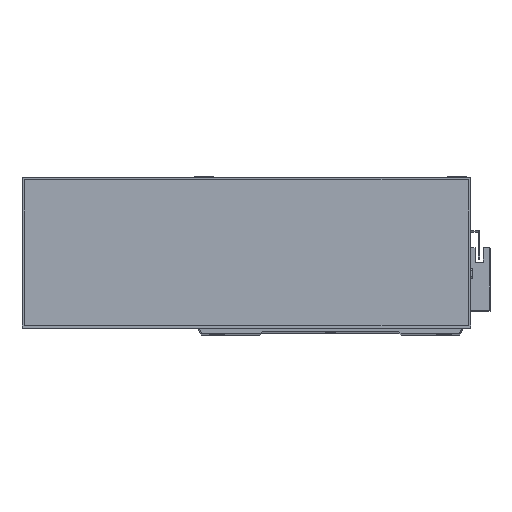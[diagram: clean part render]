
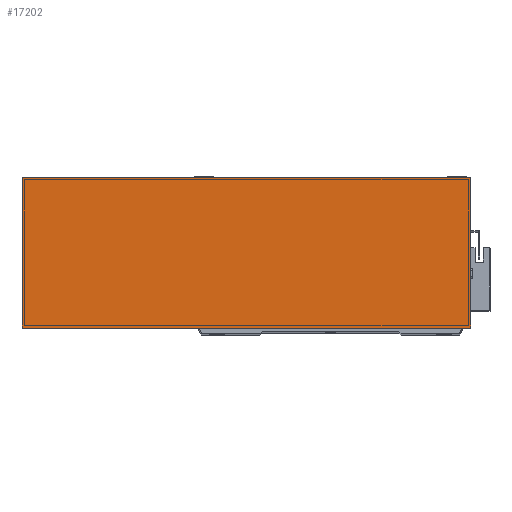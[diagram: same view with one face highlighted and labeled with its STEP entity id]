
A CAD part, top view. The second image highlights one B-rep face of the part: STEP entity #17202.
In plain terms, the highlighted planar face has unit normal (0, 0, 1).
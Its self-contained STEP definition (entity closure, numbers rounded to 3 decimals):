
#383 = CARTESIAN_POINT ( 'NONE',  ( 0., 93., 50. ) ) ;
#455 = DIRECTION ( 'NONE',  ( 0., 1., 0. ) ) ;
#790 = VERTEX_POINT ( 'NONE', #18123 ) ;
#1466 = VECTOR ( 'NONE', #2035, 1000. ) ;
#2035 = DIRECTION ( 'NONE',  ( 1., 0., 0. ) ) ;
#2401 = VERTEX_POINT ( 'NONE', #383 ) ;
#2823 = VERTEX_POINT ( 'NONE', #26695 ) ;
#2901 = CARTESIAN_POINT ( 'NONE',  ( 0., 93., 50. ) ) ;
#3943 = CARTESIAN_POINT ( 'NONE',  ( 0., 0., 50. ) ) ;
#4172 = CARTESIAN_POINT ( 'NONE',  ( 0., 0., 50. ) ) ;
#6083 = DIRECTION ( 'NONE',  ( 0., 0., -1. ) ) ;
#8407 = LINE ( 'NONE', #12569, #1466 ) ;
#9014 = VECTOR ( 'NONE', #19879, 1000. ) ;
#9036 = EDGE_CURVE ( 'NONE', #14085, #2823, #8407, .T. ) ;
#9432 = LINE ( 'NONE', #25857, #20077 ) ;
#9690 = LINE ( 'NONE', #2901, #9014 ) ;
#9977 = ORIENTED_EDGE ( 'NONE', *, *, #24709, .T. ) ;
#10521 = ORIENTED_EDGE ( 'NONE', *, *, #10921, .T. ) ;
#10536 = ORIENTED_EDGE ( 'NONE', *, *, #9036, .T. ) ;
#10631 = VECTOR ( 'NONE', #17640, 1000. ) ;
#10921 = EDGE_CURVE ( 'NONE', #2401, #14085, #21985, .T. ) ;
#11594 = AXIS2_PLACEMENT_3D ( 'NONE', #3943, #6083, #20932 ) ;
#12569 = CARTESIAN_POINT ( 'NONE',  ( 0., 0., 50. ) ) ;
#12948 = FACE_OUTER_BOUND ( 'NONE', #18957, .T. ) ;
#14085 = VERTEX_POINT ( 'NONE', #4172 ) ;
#14817 = EDGE_CURVE ( 'NONE', #2823, #790, #9432, .T. ) ;
#15003 = ORIENTED_EDGE ( 'NONE', *, *, #14817, .T. ) ;
#17202 = ADVANCED_FACE ( 'NONE', ( #12948 ), #27231, .F. ) ;
#17554 = CARTESIAN_POINT ( 'NONE',  ( 0., 0., 50. ) ) ;
#17640 = DIRECTION ( 'NONE',  ( 0., -1., 0. ) ) ;
#18123 = CARTESIAN_POINT ( 'NONE',  ( 277., 93., 50. ) ) ;
#18957 = EDGE_LOOP ( 'NONE', ( #10521, #10536, #15003, #9977 ) ) ;
#19879 = DIRECTION ( 'NONE',  ( -1., 0., 0. ) ) ;
#20077 = VECTOR ( 'NONE', #455, 1000. ) ;
#20932 = DIRECTION ( 'NONE',  ( -1., 0., 0. ) ) ;
#21985 = LINE ( 'NONE', #17554, #10631 ) ;
#24709 = EDGE_CURVE ( 'NONE', #790, #2401, #9690, .T. ) ;
#25857 = CARTESIAN_POINT ( 'NONE',  ( 277., 0., 50. ) ) ;
#26695 = CARTESIAN_POINT ( 'NONE',  ( 277., 0., 50. ) ) ;
#27231 = PLANE ( 'NONE',  #11594 ) ;
